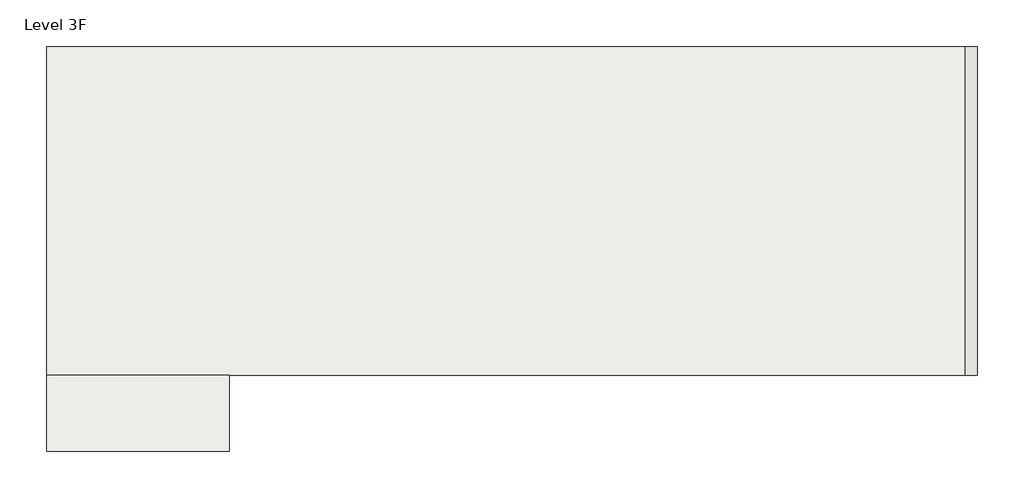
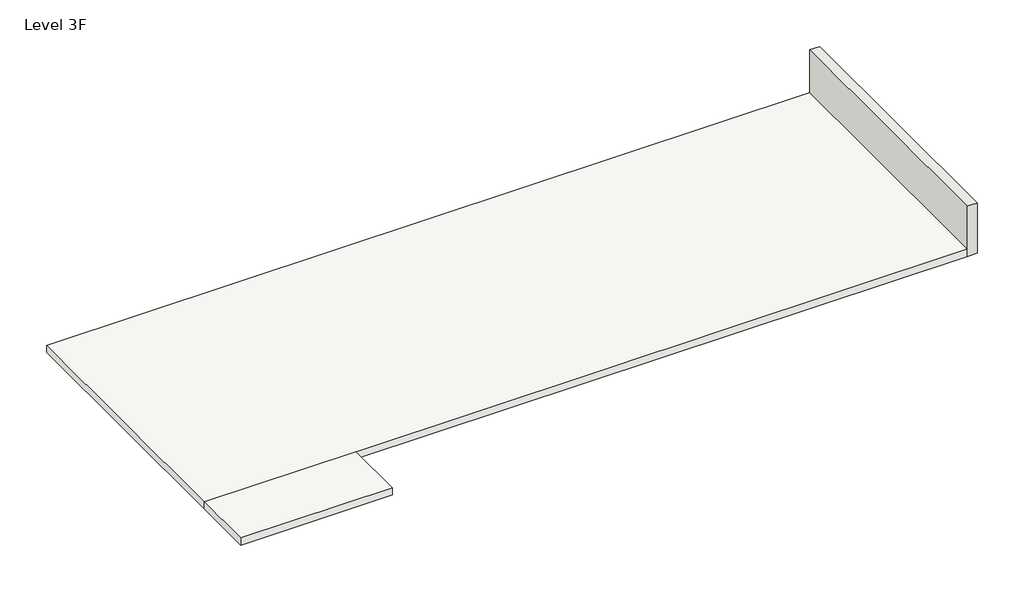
# One storey: 2 slabs, 1 wall.
"""IFC4 building model written with IfcOpenShell, lengths in millimetres."""

import ifcopenshell
import ifcopenshell.guid

model = None  # the IFC model being written
_history = None  # IfcOwnerHistory: only IFC2X3 demands one
_inside = {}  # id of a spatial element -> (the spatial element, [elements in it])
_under = {}  # id of a project, library or spatial element -> (it, [spatial elements below it])
_declared = {}  # id of a project -> (the project, [libraries it declares])
_typed = {}  # id of a type object -> (the type object, [elements of that type])
_made_of = {}  # id of a material, layer set ... -> (it, [elements and type objects made of it])


def new_model(schema):
    """Start an empty IFC model of exactly this schema.

    Asked for "IFC4X3", IfcOpenShell would pick the latest addendum, in which some entities
    have other attributes; the version numbers below select the first issue.
    IFC2X3 requires an IfcOwnerHistory on every rooted entity: one is made here for all.
    """
    global model, _history
    if schema == "IFC4X3":
        model = ifcopenshell.file(schema_version=(4, 3, 0, 0))
    else:
        model = ifcopenshell.file(schema=schema)
    _inside.clear()
    _under.clear()
    _declared.clear()
    _typed.clear()
    _made_of.clear()
    _history = None
    if model.schema == "IFC2X3":
        org = make("IfcOrganization", Name="unknown")
        user = make(
            "IfcPersonAndOrganization",
            ThePerson=make("IfcPerson", FamilyName="unknown"),
            TheOrganization=org,
        )
        app = make(
            "IfcApplication",
            ApplicationDeveloper=org,
            Version="unknown",
            ApplicationFullName="unknown",
            ApplicationIdentifier="unknown",
        )
        _history = make(
            "IfcOwnerHistory",
            OwningUser=user,
            OwningApplication=app,
            ChangeAction="ADDED",
            CreationDate=0,
        )
    return model


def make(cls, **values):
    """One entity of the class cls with the attributes given. An attribute that is None is left unset."""
    return model.create_entity(
        cls, **{name: value for name, value in values.items() if value is not None}
    )


def rooted(cls, **values):
    """An entity with a GlobalId (a new one), such as an element, a storey or a relation."""
    return make(cls, GlobalId=ifcopenshell.guid.new(), OwnerHistory=_history, **values)


def si_unit(unit_type, name, prefix=None):
    """IfcSIUnit, for example si_unit("LENGTHUNIT", "METRE", prefix="MILLI")."""
    return make("IfcSIUnit", UnitType=unit_type, Prefix=prefix, Name=name)


def assignment(units):
    """IfcUnitAssignment: the units of a project."""
    return None if units is None else make("IfcUnitAssignment", Units=units)


def point(xyz):
    """IfcCartesianPoint."""
    return None if xyz is None else make("IfcCartesianPoint", Coordinates=xyz)


def direction(xyz):
    """IfcDirection."""
    return None if xyz is None else make("IfcDirection", DirectionRatios=xyz)


def frame(location, z_axis=None, x_axis=None):
    """IfcAxis2Placement3D, a coordinate frame: its origin and axes. An axis left out is left unset."""
    return make(
        "IfcAxis2Placement3D",
        Location=point(location),
        Axis=direction(z_axis),
        RefDirection=direction(x_axis),
    )


def origin():
    """The frame at (0, 0, 0) with its axes left unset."""
    return frame((0.0, 0.0, 0.0))


def place(relative_to, where):
    """IfcLocalPlacement: puts the frame where relative to a parent placement (None: the world)."""
    return make(
        "IfcLocalPlacement", PlacementRelTo=relative_to, RelativePlacement=where
    )


def context(
    kind, dimensions, precision=None, world=None, true_north=None, identifier=None
):
    """IfcGeometricRepresentationContext, for example the 3D "Model" context."""
    return make(
        "IfcGeometricRepresentationContext",
        ContextIdentifier=identifier,
        ContextType=kind,
        CoordinateSpaceDimension=dimensions,
        Precision=precision,
        WorldCoordinateSystem=world,
        TrueNorth=true_north,
    )


def project(units=None, contexts=None):
    """IfcProject with its units and contexts."""
    return rooted(
        "IfcProject",
        Name="project",
        RepresentationContexts=contexts,
        UnitsInContext=assignment(units),
    )


def spatial(cls, under=None, at=None, **own):
    """A site, building, storey or space (cls), placed at a placement, below another one or the project."""
    s = rooted(cls, ObjectPlacement=at, **own)
    if under is not None:
        _under.setdefault(under.id(), (under, []))[1].append(s)
    return s


def polyline(points):
    """IfcPolyline through the points."""
    return make("IfcPolyline", Points=[point(p) for p in points])


def outline(outer, holes=None, kind="AREA"):
    """IfcArbitraryClosedProfileDef: a profile drawn as a closed curve; with holes, ...WithVoids."""
    if holes is None:
        return make("IfcArbitraryClosedProfileDef", ProfileType=kind, OuterCurve=outer)
    return make(
        "IfcArbitraryProfileDefWithVoids",
        ProfileType=kind,
        OuterCurve=outer,
        InnerCurves=holes,
    )


def extrude(swept, where, along, depth):
    """IfcExtrudedAreaSolid: the profile swept, set in the frame where, extruded along a direction by depth."""
    return make(
        "IfcExtrudedAreaSolid",
        SweptArea=swept,
        Position=where,
        ExtrudedDirection=direction(along),
        Depth=depth,
    )


def faces_of(points, faces, orient=None, outer=None):
    """IfcFace entities. A face is a list of loops; a loop is a list of indices into points, from 0.

    orient and outer hold one flag for each loop. By default every Orientation is true, the
    first loop of a face is its IfcFaceOuterBound and the others are IfcFaceBound.
    """
    made = []
    for i, loops in enumerate(faces):
        bounds = []
        for j, loop in enumerate(loops):
            is_outer = j == 0 if outer is None else outer[i][j]
            bounds.append(
                make(
                    "IfcFaceOuterBound" if is_outer else "IfcFaceBound",
                    Bound=make("IfcPolyLoop", Polygon=[points[k] for k in loop]),
                    Orientation=True if orient is None else orient[i][j],
                )
            )
        made.append(make("IfcFace", Bounds=bounds))
    return made


def faceted_brep(points, faces, orient=None, outer=None, voids=None):
    """IfcFacetedBrep: a solid bounded by flat faces; with voids (closed shells), ...WithVoids."""
    shared = [point(p) for p in points]
    hull = make("IfcClosedShell", CfsFaces=faces_of(shared, faces, orient, outer))
    if voids is None:
        return make("IfcFacetedBrep", Outer=hull)
    return make(
        "IfcFacetedBrepWithVoids",
        Outer=hull,
        Voids=[
            make(cls, CfsFaces=faces_of(shared, fs, o, b)) for cls, fs, o, b in voids
        ],
    )


def shape(context_of_items, identifier, shape_type, items):
    """IfcShapeRepresentation: the items that make up one representation, for example the "Body"."""
    return make(
        "IfcShapeRepresentation",
        ContextOfItems=context_of_items,
        RepresentationIdentifier=identifier,
        RepresentationType=shape_type,
        Items=items,
    )


def made_of(thing, what):
    """Note that an element or type object is made of a material, layer set ...; save() writes the relation."""
    if what is not None:
        _made_of.setdefault(what.id(), (what, []))[1].append(thing)
    return thing


def element(
    cls,
    number,
    at=None,
    inside=None,
    cuts=None,
    type_object=None,
    material=None,
    context=None,
    identifier="Body",
    shape_type=None,
    held_by="IfcProductDefinitionShape",
    body=None,
    shapes=None,
    **own,
):
    """One element of the class cls, such as IfcWall. Its Tag is "e" and its number.

    at: its placement. inside: the storey or other place that contains it. cuts: it is an
    opening in that element (IfcRelVoidsElement). A single representation is given by context,
    identifier, shape_type and body (its items); several are given by shapes. held_by: the class
    of the entity that holds the representations. save() writes the other relations.
    """
    e = rooted(cls, Tag="e%d" % number, ObjectPlacement=at, **own)
    if body is not None:
        shapes = [shape(context, identifier, shape_type, body)]
    if shapes is not None:
        e.Representation = make(held_by, Representations=shapes)
    if inside is not None:
        _inside.setdefault(inside.id(), (inside, []))[1].append(e)
    if cuts is not None:
        rooted(
            "IfcRelVoidsElement", RelatingBuildingElement=cuts, RelatedOpeningElement=e
        )
    if type_object is not None:
        _typed.setdefault(type_object.id(), (type_object, []))[1].append(e)
    return made_of(e, material)


def aggregate(whole, parts):
    """IfcRelAggregates: a whole, such as a stair, and the parts it consists of."""
    return rooted("IfcRelAggregates", RelatingObject=whole, RelatedObjects=parts)


def save(model, path):
    """Write the relations noted so far, then the file.

    IfcRelAggregates (storeys below a building ...), IfcRelContainedInSpatialStructure (elements
    in a storey), IfcRelDefinesByType, IfcRelAssociatesMaterial and IfcRelDeclares: one each for
    every whole, place, type object, material and project.
    """
    for whole, parts in _under.values():
        aggregate(whole, parts)
    for where, things in _inside.values():
        rooted(
            "IfcRelContainedInSpatialStructure",
            RelatedElements=things,
            RelatingStructure=where,
        )
    for kind, things in _typed.values():
        rooted("IfcRelDefinesByType", RelatedObjects=things, RelatingType=kind)
    for what, things in _made_of.values():
        rooted("IfcRelAssociatesMaterial", RelatedObjects=things, RelatingMaterial=what)
    for by, libraries in _declared.values():
        rooted("IfcRelDeclares", RelatingContext=by, RelatedDefinitions=libraries)
    model.write(path)


model = new_model("IFC4")

# Units and contexts
model_context = context("Model", 3, world=origin())
ifc_project = project(units=[si_unit("LENGTHUNIT", "METRE", prefix="MILLI")], contexts=[model_context])

# Site, building, storey
site = spatial("IfcSite", under=ifc_project)
building = spatial("IfcBuilding", under=site)
storey = spatial("IfcBuildingStorey", under=building, Name="Level 3F", Elevation=5100.0)

# Slabs
placement = place(None, origin())
element("IfcSlab", 1, ObjectType="Generic 150mm", at=placement, inside=storey, context=model_context, shape_type="Brep", body=[
    faceted_brep([(7626.2760724, -7296.8966791, 4950.0), (7626.2760724, -12696.8966791, 4950.0), (-4473.7239276, -12696.8966791, 4950.0), (-7473.7239276, -12696.8966791, 4950.0), (-7473.7239276, -7296.8966791, 4950.0), (7626.2760724, -7296.8966791, 5100.0), (-7473.7239276, -7296.8966791, 5100.0), (-7473.7239276, -12696.8966791, 5100.0), (-4473.7239276, -12696.8966791, 5100.0), (7626.2760724, -12696.8966791, 5100.0)], [[[0, 1, 2, 3, 4]], [[5, 6, 7, 8, 9]], [[1, 0, 5, 9]], [[3, 2, 1, 9, 8, 7]], [[4, 3, 7, 6]], [[0, 4, 6, 5]]]),
])
element("IfcSlab", 2, ObjectType="Generic 150mm", at=placement, inside=storey, context=model_context, shape_type="SweptSolid", body=[
    extrude(outline(polyline([(-7473.7239276, -13946.8966791), (-7473.7239276, -12696.8966791), (-4473.7239276, -12696.8966791), (-4473.7239276, -13946.8966791), (-7473.7239276, -13946.8966791)])), frame((0.0, 0.0, 4950.0), z_axis=(0.0, 0.0, 1.0), x_axis=(1.0, 0.0, 0.0)), (0.0, 0.0, 1.0), 150.0),
])

# Wall
element("IfcWall", 3, ObjectType="Generic - 200mm", at=placement, inside=storey, context=model_context, shape_type="SweptSolid", body=[
    extrude(outline(polyline([(7826.2760724, -7296.8966791), (7826.2760724, -12696.8966791), (7626.2760724, -12696.8966791), (7626.2760724, -7296.8966791), (7826.2760724, -7296.8966791)])), frame((0.0, 0.0, 4950.0), z_axis=(0.0, 0.0, 1.0), x_axis=(1.0, 0.0, 0.0)), (0.0, 0.0, 1.0), 1050.0),
])

save(model, "model.ifc")
